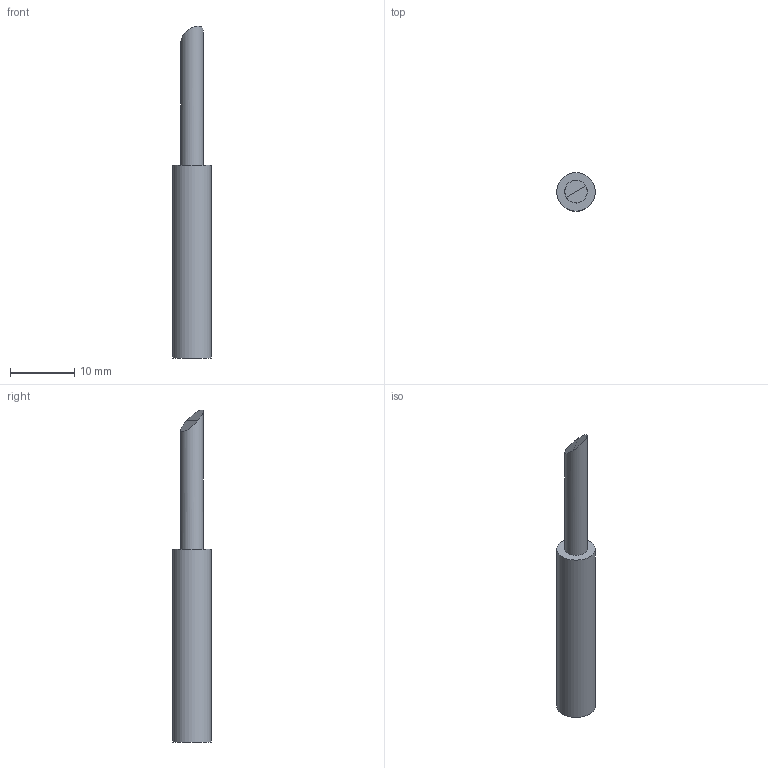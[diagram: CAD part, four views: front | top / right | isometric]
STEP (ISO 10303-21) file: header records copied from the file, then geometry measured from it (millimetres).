
FILE_DESCRIPTION((''),'2;1');
FILE_NAME('C:\Vault_local\Designs\Stock\3D pour clients\préparations\2D3D 510 A.stp','2009-08-05T13:57:06',('Georges THOLLOT ','Responsable ','Mthodes et Industrialisation',' Tl : +33 (0)4 77 53 90 27','gthollot@celduc.com'),('Celduc r e l a i s','5, rue Ampre, BP 30004','42290 SORBIERS - France','Fax. : +33 (0)4 77 53 85 51','N siret 353 310 519 00015','ISO 9001 N QUAL/1993/1106b','www.celduc.com'),'Autodesk Inventor 2009','Autodesk Inventor 2009','');
FILE_SCHEMA(('AUTOMOTIVE_DESIGN { 1 0 10303 214 1 1 1 1 }'));
Length unit declared in the file: millimetre
Products named in the file (1): PTABC1 Ø6 L30
Bounding box: 6 x 6 x 51.69 mm (x, y, z)
Volume: 1040.7 mm3; surface area: 845.7 mm2
Topology: 1 solids, 1 shells, 6 faces, 9 edges, 6 vertices
Faces by surface type: plane 4, cylinder 2
Full cylindrical faces by diameter (mm): 3.5 x1, 6 x1
Entity records: 157 total; most frequent: DIRECTION 25, CARTESIAN_POINT 18, AXIS2_PLACEMENT_3D 12, ORIENTED_EDGE 12, EDGE_LOOP 9, EDGE_CURVE 6, FACE_OUTER_BOUND 6, ADVANCED_FACE 6
